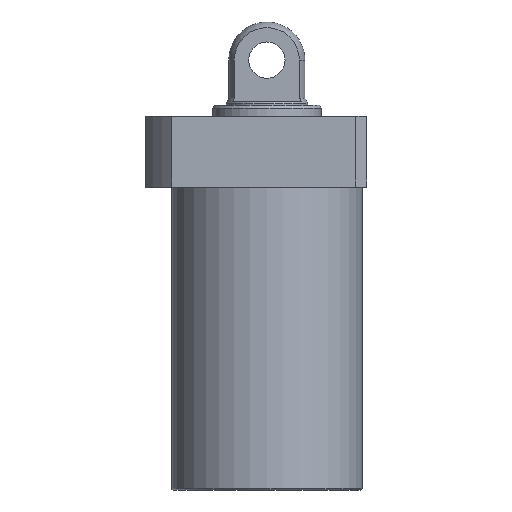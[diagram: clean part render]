
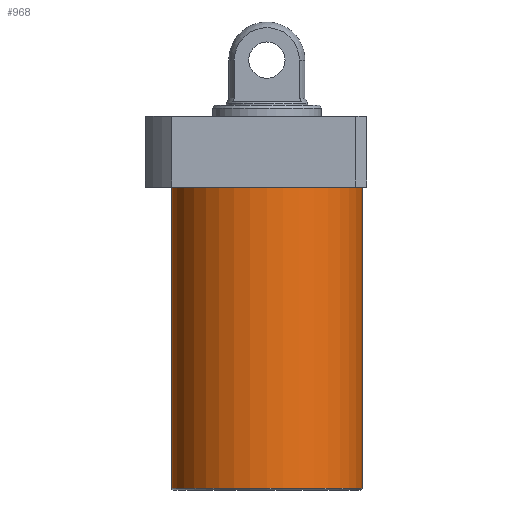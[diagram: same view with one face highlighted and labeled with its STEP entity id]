
A CAD part, front view. The second image highlights one B-rep face of the part: STEP entity #968.
In plain terms, the highlighted cylindrical face has radius 52.5 mm (diameter 105 mm), a partial arc.
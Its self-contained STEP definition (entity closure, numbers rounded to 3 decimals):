
#14 = VECTOR ( 'NONE', #1640, 1000. ) ;
#26 = CARTESIAN_POINT ( 'NONE',  ( -52.5, 0., -185.5 ) ) ;
#30 = DIRECTION ( 'NONE',  ( 0., 0., 1. ) ) ;
#42 = DIRECTION ( 'NONE',  ( 1., 0., 0. ) ) ;
#57 = CARTESIAN_POINT ( 'NONE',  ( 0., 0., -185.5 ) ) ;
#128 = EDGE_CURVE ( 'NONE', #1496, #901, #1062, .T. ) ;
#137 = AXIS2_PLACEMENT_3D ( 'NONE', #607, #30, #42 ) ;
#214 = ORIENTED_EDGE ( 'NONE', *, *, #296, .T. ) ;
#296 = EDGE_CURVE ( 'NONE', #901, #580, #1038, .T. ) ;
#397 = ORIENTED_EDGE ( 'NONE', *, *, #418, .T. ) ;
#418 = EDGE_CURVE ( 'NONE', #580, #1324, #1147, .T. ) ;
#463 = DIRECTION ( 'NONE',  ( 0., 0., -1. ) ) ;
#484 = DIRECTION ( 'NONE',  ( -1., 0., 0. ) ) ;
#503 = CARTESIAN_POINT ( 'NONE',  ( -52.5, 0., -186.5 ) ) ;
#580 = VERTEX_POINT ( 'NONE', #1465 ) ;
#607 = CARTESIAN_POINT ( 'NONE',  ( 0., 0., -186.5 ) ) ;
#609 = CYLINDRICAL_SURFACE ( 'NONE', #137, 52.5 ) ;
#649 = EDGE_CURVE ( 'NONE', #1496, #1324, #1388, .T. ) ;
#789 = AXIS2_PLACEMENT_3D ( 'NONE', #57, #1305, #484 ) ;
#844 = ORIENTED_EDGE ( 'NONE', *, *, #128, .T. ) ;
#901 = VERTEX_POINT ( 'NONE', #1548 ) ;
#918 = FACE_OUTER_BOUND ( 'NONE', #946, .T. ) ;
#926 = CARTESIAN_POINT ( 'NONE',  ( -52.5, 0., -19.5 ) ) ;
#927 = CARTESIAN_POINT ( 'NONE',  ( 52.5, 0., -186.5 ) ) ;
#946 = EDGE_LOOP ( 'NONE', ( #1562, #844, #214, #397 ) ) ;
#968 = ADVANCED_FACE ( 'NONE', ( #918 ), #609, .T. ) ;
#1022 = CARTESIAN_POINT ( 'NONE',  ( 0., 0., -19.5 ) ) ;
#1038 = LINE ( 'NONE', #927, #14 ) ;
#1062 = CIRCLE ( 'NONE', #789, 52.5 ) ;
#1147 = CIRCLE ( 'NONE', #1683, 52.5 ) ;
#1305 = DIRECTION ( 'NONE',  ( 0., 0., 1. ) ) ;
#1324 = VERTEX_POINT ( 'NONE', #926 ) ;
#1388 = LINE ( 'NONE', #503, #1721 ) ;
#1465 = CARTESIAN_POINT ( 'NONE',  ( 52.5, 0., -19.5 ) ) ;
#1496 = VERTEX_POINT ( 'NONE', #26 ) ;
#1548 = CARTESIAN_POINT ( 'NONE',  ( 52.5, 0., -185.5 ) ) ;
#1557 = DIRECTION ( 'NONE',  ( 1., 0., 0. ) ) ;
#1562 = ORIENTED_EDGE ( 'NONE', *, *, #649, .F. ) ;
#1640 = DIRECTION ( 'NONE',  ( 0., 0., 1. ) ) ;
#1683 = AXIS2_PLACEMENT_3D ( 'NONE', #1022, #463, #1557 ) ;
#1721 = VECTOR ( 'NONE', #1767, 1000. ) ;
#1767 = DIRECTION ( 'NONE',  ( 0., 0., 1. ) ) ;
